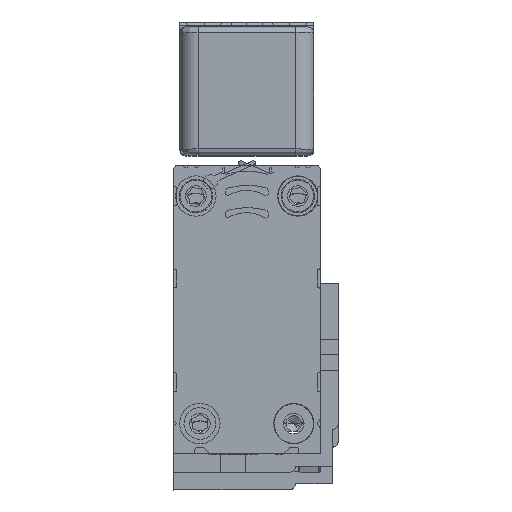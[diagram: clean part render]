
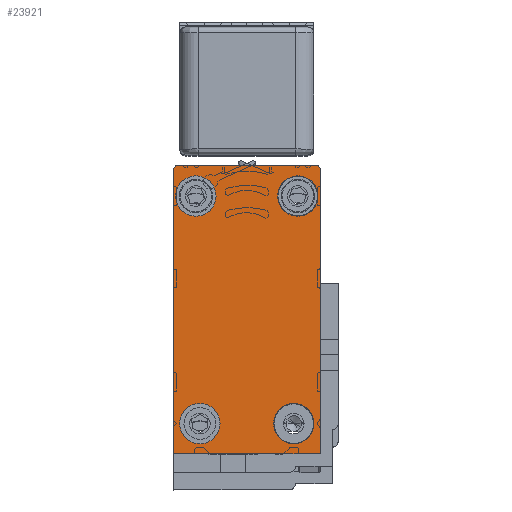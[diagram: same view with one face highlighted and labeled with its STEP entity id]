
A CAD part, top view. The second image highlights one B-rep face of the part: STEP entity #23921.
In plain terms, the highlighted planar face has unit normal (0, 0, 1).
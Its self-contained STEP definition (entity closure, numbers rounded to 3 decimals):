
#18 = DIRECTION ( 'NONE',  ( 0., 0., -1. ) ) ;
#489 = DIRECTION ( 'NONE',  ( 0., 1., 0. ) ) ;
#503 = VERTEX_POINT ( 'NONE', #15157 ) ;
#595 = DIRECTION ( 'NONE',  ( 0., 0., -1. ) ) ;
#1043 = CARTESIAN_POINT ( 'NONE',  ( -17.514, 26.371, 3185. ) ) ;
#1168 = DIRECTION ( 'NONE',  ( -1., 0., 0. ) ) ;
#1292 = FACE_BOUND ( 'NONE', #21043, .T. ) ;
#1369 = EDGE_CURVE ( 'NONE', #25187, #13257, #6870, .T. ) ;
#1455 = VERTEX_POINT ( 'NONE', #2394 ) ;
#1672 = CARTESIAN_POINT ( 'NONE',  ( -17.514, 25.871, 3185. ) ) ;
#1817 = DIRECTION ( 'NONE',  ( 0., 0., -1. ) ) ;
#2371 = CARTESIAN_POINT ( 'NONE',  ( 5.485, 25.871, 3185. ) ) ;
#2394 = CARTESIAN_POINT ( 'NONE',  ( 5.984, 7.11, 3185. ) ) ;
#2522 = ORIENTED_EDGE ( 'NONE', *, *, #24762, .T. ) ;
#2744 = VERTEX_POINT ( 'NONE', #20572 ) ;
#2801 = CARTESIAN_POINT ( 'NONE',  ( -13.714, -15.887, 3185. ) ) ;
#2920 = ORIENTED_EDGE ( 'NONE', *, *, #11079, .T. ) ;
#3419 = CARTESIAN_POINT ( 'NONE',  ( -17.017, -15.887, 3185. ) ) ;
#3454 = CIRCLE ( 'NONE', #15178, 3.302 ) ;
#3660 = EDGE_LOOP ( 'NONE', ( #9260, #6500 ) ) ;
#3718 = VERTEX_POINT ( 'NONE', #6231 ) ;
#3821 = DIRECTION ( 'NONE',  ( 0., 1., 0. ) ) ;
#4286 = CARTESIAN_POINT ( 'NONE',  ( -14.365, 21.401, 3185. ) ) ;
#4530 = DIRECTION ( 'NONE',  ( 0., 1., 0. ) ) ;
#4687 = VERTEX_POINT ( 'NONE', #11402 ) ;
#4731 = CARTESIAN_POINT ( 'NONE',  ( -18.014, -20.888, 3185. ) ) ;
#4967 = DIRECTION ( 'NONE',  ( -1., 0., 0. ) ) ;
#5069 = ORIENTED_EDGE ( 'NONE', *, *, #10757, .T. ) ;
#5779 = DIRECTION ( 'NONE',  ( 0., 0., -1. ) ) ;
#6021 = AXIS2_PLACEMENT_3D ( 'NONE', #4286, #19321, #6455 ) ;
#6231 = CARTESIAN_POINT ( 'NONE',  ( 5.637, 21.401, 3185. ) ) ;
#6300 = CIRCLE ( 'NONE', #9769, 0.5 ) ;
#6320 = FACE_BOUND ( 'NONE', #10019, .T. ) ;
#6371 = CIRCLE ( 'NONE', #23650, 3.302 ) ;
#6455 = DIRECTION ( 'NONE',  ( -1., 0., 0. ) ) ;
#6500 = ORIENTED_EDGE ( 'NONE', *, *, #27846, .T. ) ;
#6746 = CARTESIAN_POINT ( 'NONE',  ( -17.667, 21.401, 3185. ) ) ;
#6870 = CIRCLE ( 'NONE', #6021, 3.302 ) ;
#6893 = EDGE_LOOP ( 'NONE', ( #2522, #21016, #2920, #27856, #20812, #26745, #22282 ) ) ;
#6898 = DIRECTION ( 'NONE',  ( -1., 0., 0. ) ) ;
#7260 = EDGE_CURVE ( 'NONE', #17415, #10330, #23574, .T. ) ;
#7393 = ORIENTED_EDGE ( 'NONE', *, *, #18093, .T. ) ;
#7502 = AXIS2_PLACEMENT_3D ( 'NONE', #26920, #14009, #1168 ) ;
#7675 = VECTOR ( 'NONE', #21403, 1000. ) ;
#7854 = LINE ( 'NONE', #19801, #18616 ) ;
#8045 = VERTEX_POINT ( 'NONE', #3419 ) ;
#8621 = CARTESIAN_POINT ( 'NONE',  ( 2.335, 21.401, 3185. ) ) ;
#9000 = VERTEX_POINT ( 'NONE', #22675 ) ;
#9260 = ORIENTED_EDGE ( 'NONE', *, *, #1369, .T. ) ;
#9769 = AXIS2_PLACEMENT_3D ( 'NONE', #2371, #17412, #4530 ) ;
#10019 = EDGE_LOOP ( 'NONE', ( #17730, #11637 ) ) ;
#10179 = CIRCLE ( 'NONE', #27168, 3.302 ) ;
#10330 = VERTEX_POINT ( 'NONE', #1043 ) ;
#10757 = EDGE_CURVE ( 'NONE', #503, #24355, #14047, .T. ) ;
#10810 = DIRECTION ( 'NONE',  ( -1., 0., 0. ) ) ;
#11052 = CARTESIAN_POINT ( 'NONE',  ( -18.014, -20.888, 3185. ) ) ;
#11079 = EDGE_CURVE ( 'NONE', #19990, #4687, #6300, .T. ) ;
#11360 = FACE_OUTER_BOUND ( 'NONE', #6893, .T. ) ;
#11402 = CARTESIAN_POINT ( 'NONE',  ( 5.485, 26.371, 3185. ) ) ;
#11637 = ORIENTED_EDGE ( 'NONE', *, *, #14301, .T. ) ;
#11708 = EDGE_CURVE ( 'NONE', #17415, #9000, #27484, .T. ) ;
#11743 = VECTOR ( 'NONE', #489, 1000. ) ;
#11935 = CARTESIAN_POINT ( 'NONE',  ( 5.984, 25.871, 3185. ) ) ;
#12880 = CARTESIAN_POINT ( 'NONE',  ( 2.335, 21.401, 3185. ) ) ;
#13257 = VERTEX_POINT ( 'NONE', #27288 ) ;
#13391 = LINE ( 'NONE', #19231, #7675 ) ;
#13457 = CARTESIAN_POINT ( 'NONE',  ( -14.365, 21.401, 3185. ) ) ;
#13872 = AXIS2_PLACEMENT_3D ( 'NONE', #8621, #23677, #10810 ) ;
#14009 = DIRECTION ( 'NONE',  ( 0., 0., -1. ) ) ;
#14047 = CIRCLE ( 'NONE', #22343, 3.302 ) ;
#14251 = VERTEX_POINT ( 'NONE', #19078 ) ;
#14301 = EDGE_CURVE ( 'NONE', #3718, #23213, #25742, .T. ) ;
#14688 = CARTESIAN_POINT ( 'NONE',  ( 1.676, -15.887, 3185. ) ) ;
#14995 = VECTOR ( 'NONE', #26096, 1000. ) ;
#15036 = DIRECTION ( 'NONE',  ( -1., 0., 0. ) ) ;
#15157 = CARTESIAN_POINT ( 'NONE',  ( -1.626, -15.887, 3185. ) ) ;
#15178 = AXIS2_PLACEMENT_3D ( 'NONE', #13457, #595, #15620 ) ;
#15352 = PLANE ( 'NONE',  #16546 ) ;
#15620 = DIRECTION ( 'NONE',  ( -1., 0., 0. ) ) ;
#15913 = EDGE_CURVE ( 'NONE', #4687, #10330, #7854, .T. ) ;
#15949 = ORIENTED_EDGE ( 'NONE', *, *, #17736, .T. ) ;
#16546 = AXIS2_PLACEMENT_3D ( 'NONE', #4731, #19783, #6898 ) ;
#16697 = DIRECTION ( 'NONE',  ( 0., 0., -1. ) ) ;
#16782 = LINE ( 'NONE', #26252, #11743 ) ;
#16860 = DIRECTION ( 'NONE',  ( -1., 0., 0. ) ) ;
#17081 = FACE_BOUND ( 'NONE', #3660, .T. ) ;
#17412 = DIRECTION ( 'NONE',  ( 0., 0., 1. ) ) ;
#17415 = VERTEX_POINT ( 'NONE', #23637 ) ;
#17730 = ORIENTED_EDGE ( 'NONE', *, *, #21218, .T. ) ;
#17736 = EDGE_CURVE ( 'NONE', #8045, #14251, #18606, .T. ) ;
#17859 = DIRECTION ( 'NONE',  ( 0., 0., -1. ) ) ;
#18093 = EDGE_CURVE ( 'NONE', #24355, #503, #10179, .T. ) ;
#18386 = DIRECTION ( 'NONE',  ( 0., -1., 0. ) ) ;
#18606 = CIRCLE ( 'NONE', #7502, 3.302 ) ;
#18616 = VECTOR ( 'NONE', #21950, 1000. ) ;
#18648 = CARTESIAN_POINT ( 'NONE',  ( 1.676, -15.887, 3185. ) ) ;
#19078 = CARTESIAN_POINT ( 'NONE',  ( -10.412, -15.887, 3185. ) ) ;
#19231 = CARTESIAN_POINT ( 'NONE',  ( 5.984, -20.888, 3185. ) ) ;
#19321 = DIRECTION ( 'NONE',  ( 0., 0., -1. ) ) ;
#19783 = DIRECTION ( 'NONE',  ( 0., 0., 1. ) ) ;
#19801 = CARTESIAN_POINT ( 'NONE',  ( 5.485, 26.371, 3185. ) ) ;
#19990 = VERTEX_POINT ( 'NONE', #11935 ) ;
#20004 = CARTESIAN_POINT ( 'NONE',  ( 4.978, -15.887, 3185. ) ) ;
#20562 = EDGE_CURVE ( 'NONE', #1455, #19990, #16782, .T. ) ;
#20572 = CARTESIAN_POINT ( 'NONE',  ( 5.984, -20.888, 3185. ) ) ;
#20786 = CIRCLE ( 'NONE', #13872, 3.302 ) ;
#20812 = ORIENTED_EDGE ( 'NONE', *, *, #7260, .F. ) ;
#20825 = DIRECTION ( 'NONE',  ( -1., 0., 0. ) ) ;
#21016 = ORIENTED_EDGE ( 'NONE', *, *, #20562, .T. ) ;
#21043 = EDGE_LOOP ( 'NONE', ( #5069, #7393 ) ) ;
#21077 = VECTOR ( 'NONE', #18386, 1000. ) ;
#21218 = EDGE_CURVE ( 'NONE', #23213, #3718, #20786, .T. ) ;
#21403 = DIRECTION ( 'NONE',  ( 0., 1., 0. ) ) ;
#21950 = DIRECTION ( 'NONE',  ( -1., 0., 0. ) ) ;
#22057 = CARTESIAN_POINT ( 'NONE',  ( -0.967, 21.401, 3185. ) ) ;
#22282 = ORIENTED_EDGE ( 'NONE', *, *, #26542, .T. ) ;
#22343 = AXIS2_PLACEMENT_3D ( 'NONE', #18648, #5779, #20825 ) ;
#22577 = EDGE_CURVE ( 'NONE', #14251, #8045, #6371, .T. ) ;
#22675 = CARTESIAN_POINT ( 'NONE',  ( -18.014, -20.888, 3185. ) ) ;
#22787 = FACE_BOUND ( 'NONE', #26065, .T. ) ;
#22901 = AXIS2_PLACEMENT_3D ( 'NONE', #1672, #16697, #3821 ) ;
#23213 = VERTEX_POINT ( 'NONE', #22057 ) ;
#23257 = CARTESIAN_POINT ( 'NONE',  ( -18.014, 25.871, 3185. ) ) ;
#23574 = CIRCLE ( 'NONE', #22901, 0.5 ) ;
#23637 = CARTESIAN_POINT ( 'NONE',  ( -18.014, 25.871, 3185. ) ) ;
#23650 = AXIS2_PLACEMENT_3D ( 'NONE', #2801, #17859, #4967 ) ;
#23677 = DIRECTION ( 'NONE',  ( 0., 0., -1. ) ) ;
#23921 = ADVANCED_FACE ( 'NONE', ( #17081, #6320, #1292, #22787, #11360 ), #15352, .T. ) ;
#24265 = ORIENTED_EDGE ( 'NONE', *, *, #22577, .T. ) ;
#24355 = VERTEX_POINT ( 'NONE', #20004 ) ;
#24762 = EDGE_CURVE ( 'NONE', #2744, #1455, #13391, .T. ) ;
#25187 = VERTEX_POINT ( 'NONE', #6746 ) ;
#25742 = CIRCLE ( 'NONE', #27440, 3.302 ) ;
#26065 = EDGE_LOOP ( 'NONE', ( #15949, #24265 ) ) ;
#26096 = DIRECTION ( 'NONE',  ( 1., 0., 0. ) ) ;
#26252 = CARTESIAN_POINT ( 'NONE',  ( 5.984, 7.11, 3185. ) ) ;
#26445 = LINE ( 'NONE', #11052, #14995 ) ;
#26542 = EDGE_CURVE ( 'NONE', #9000, #2744, #26445, .T. ) ;
#26745 = ORIENTED_EDGE ( 'NONE', *, *, #11708, .T. ) ;
#26920 = CARTESIAN_POINT ( 'NONE',  ( -13.714, -15.887, 3185. ) ) ;
#27168 = AXIS2_PLACEMENT_3D ( 'NONE', #14688, #1817, #16860 ) ;
#27288 = CARTESIAN_POINT ( 'NONE',  ( -11.063, 21.401, 3185. ) ) ;
#27440 = AXIS2_PLACEMENT_3D ( 'NONE', #12880, #18, #15036 ) ;
#27484 = LINE ( 'NONE', #23257, #21077 ) ;
#27846 = EDGE_CURVE ( 'NONE', #13257, #25187, #3454, .T. ) ;
#27856 = ORIENTED_EDGE ( 'NONE', *, *, #15913, .T. ) ;
